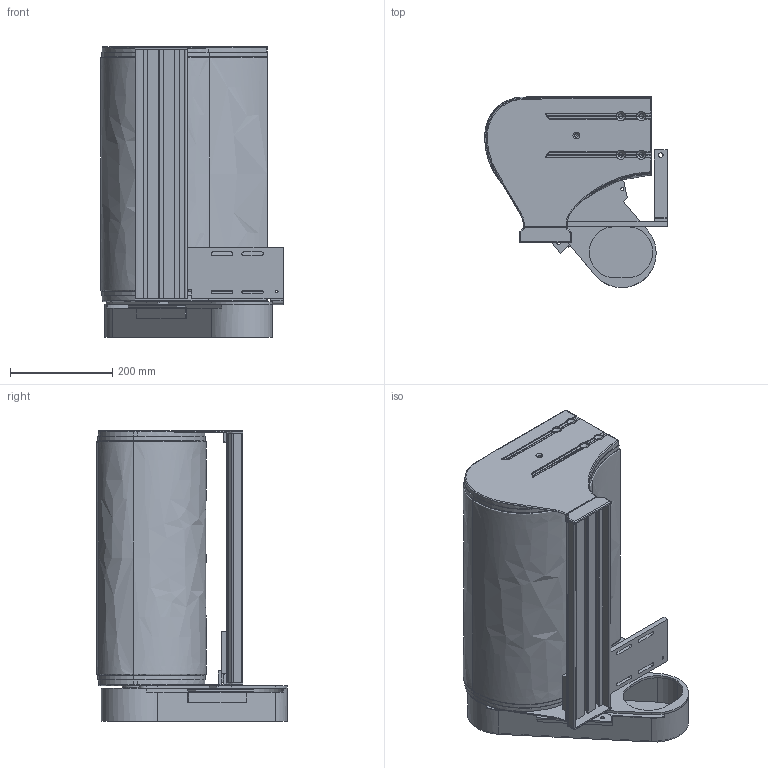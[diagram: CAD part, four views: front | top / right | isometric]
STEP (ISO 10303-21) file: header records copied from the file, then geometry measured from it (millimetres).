
FILE_DESCRIPTION (( 'STEP AP214' ), '1' );
FILE_NAME ('F2 1800 MSD20.step', '2017-04-05T07:30:33', ( '' ), ( '' ), 'SwSTEP 2.0', 'SolidWorks 2015', '' );
FILE_SCHEMA (( 'AUTOMOTIVE_DESIGN' ));
Length unit declared in the file: millimetre
Products named in the file (1): F2 1800 MSD20
Bounding box: 357.48 x 374.02 x 570 mm (x, y, z)
Volume: 30609629.4 mm3; surface area: 1230170.8 mm2
Topology: 8 solids, 8 shells, 821 faces, 2147 edges, 1318 vertices
Faces by surface type: cylinder 360, plane 271, torus 122, cone 40, bspline 28
Entity records: 28951 total; most frequent: CARTESIAN_POINT 7104, DIRECTION 4328, ORIENTED_EDGE 4238, EDGE_CURVE 2119, AXIS2_PLACEMENT_3D 1643, VERTEX_POINT 1318, LINE 1042, VECTOR 1042
